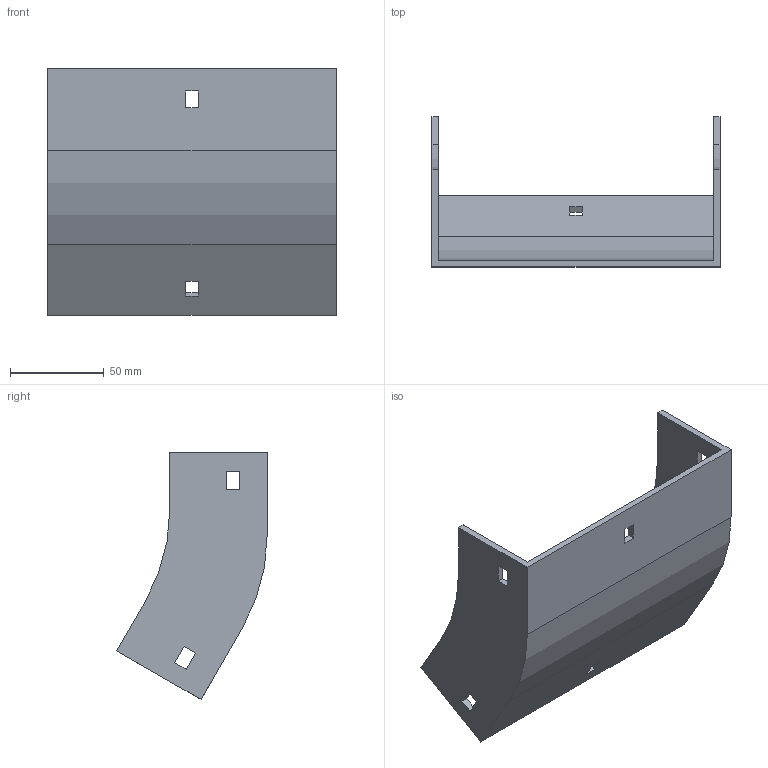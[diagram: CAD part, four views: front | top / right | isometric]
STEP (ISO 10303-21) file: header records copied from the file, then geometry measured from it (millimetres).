
FILE_DESCRIPTION (( 'STEP AP214' ), '1' );
FILE_NAME ('32F1B150.step', '2025-02-21T12:58:02', ( '' ), ( '' ), 'SwSTEP 2.0', 'SolidWorks 2023', '' );
FILE_SCHEMA (( 'AUTOMOTIVE_DESIGN' ));
Length unit declared in the file: millimetre
Products named in the file (1): 32F1B150
Bounding box: 154 x 80.4 x 131.98 mm (x, y, z)
Volume: 116704.1 mm3; surface area: 69931 mm2
Topology: 1 solids, 1 shells, 42 faces, 120 edges, 80 vertices
Faces by surface type: plane 38, cylinder 4
Entity records: 1399 total; most frequent: CARTESIAN_POINT 243, ORIENTED_EDGE 240, DIRECTION 214, EDGE_CURVE 120, VECTOR 112, LINE 112, VERTEX_POINT 80, EDGE_LOOP 54
